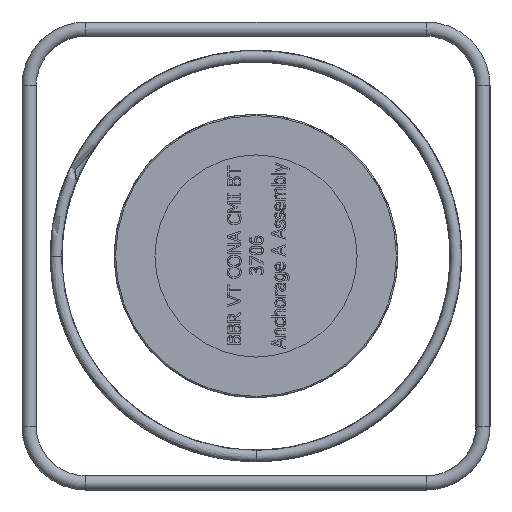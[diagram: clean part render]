
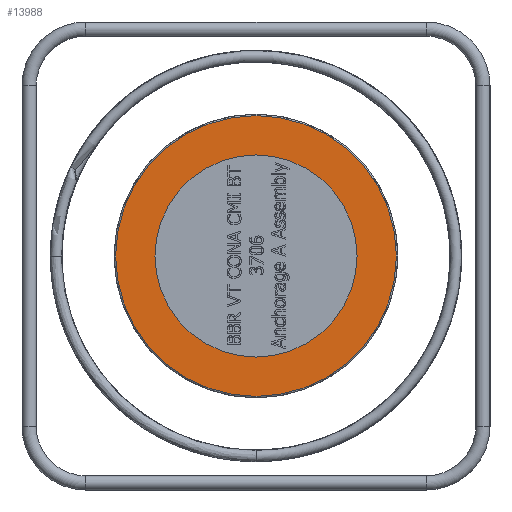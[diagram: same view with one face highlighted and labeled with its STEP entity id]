
A CAD part, left-side view. The second image highlights one B-rep face of the part: STEP entity #13988.
In plain terms, the highlighted planar face has unit normal (-1, 0, 0).
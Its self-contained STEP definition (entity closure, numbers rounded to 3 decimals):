
#3423=PLANE('',#14500);
#3569=FACE_BOUND('',#5144,.T.);
#4300=FACE_OUTER_BOUND('',#5143,.T.);
#5143=EDGE_LOOP('',(#12055));
#5144=EDGE_LOOP('',(#12056));
#5439=CIRCLE('',#14496,142.5);
#5442=CIRCLE('',#14501,198.);
#6698=VERTEX_POINT('',#24302);
#6705=VERTEX_POINT('',#24376);
#8528=EDGE_CURVE('',#6698,#6698,#5439,.T.);
#8535=EDGE_CURVE('',#6705,#6705,#5442,.T.);
#12055=ORIENTED_EDGE('',*,*,#8535,.T.);
#12056=ORIENTED_EDGE('',*,*,#8528,.T.);
#13988=ADVANCED_FACE('',(#4300,#3569),#3423,.T.);
#14496=AXIS2_PLACEMENT_3D('',#24303,#16528,#16529);
#14500=AXIS2_PLACEMENT_3D('',#24375,#16536,#16537);
#14501=AXIS2_PLACEMENT_3D('',#24377,#16538,#16539);
#16528=DIRECTION('center_axis',(1.,0.,0.));
#16529=DIRECTION('ref_axis',(0.,1.,0.));
#16536=DIRECTION('center_axis',(-1.,0.,0.));
#16537=DIRECTION('ref_axis',(0.,0.,1.));
#16538=DIRECTION('center_axis',(-1.,0.,0.));
#16539=DIRECTION('ref_axis',(0.,-1.,0.));
#24302=CARTESIAN_POINT('',(-275.,142.5,0.));
#24303=CARTESIAN_POINT('Origin',(-275.,0.,0.));
#24375=CARTESIAN_POINT('Origin',(-275.,-156.25,0.));
#24376=CARTESIAN_POINT('',(-275.,-198.,0.));
#24377=CARTESIAN_POINT('Origin',(-275.,0.,0.));
